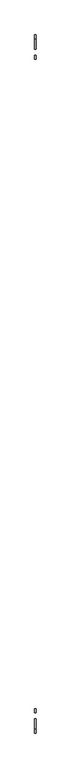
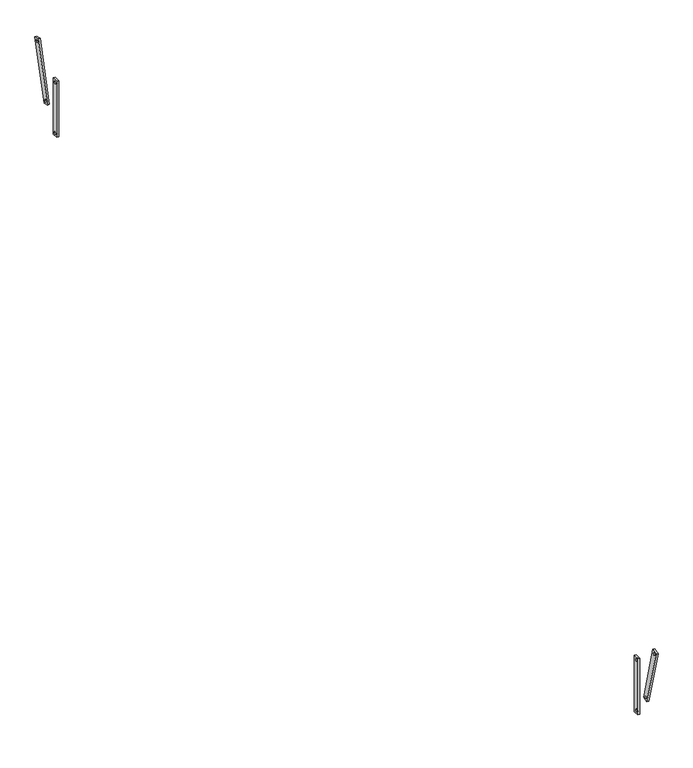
"""IFC4 building model written with IfcOpenShell, lengths in millimetres: proxy geometry, Modelos genéricos 278 : Modelos genéricos 278."""

import ifcopenshell
import ifcopenshell.guid

model = None  # the IFC model being written
_history = None  # IfcOwnerHistory: only IFC2X3 demands one
_inside = {}  # id of a spatial element -> (the spatial element, [elements in it])
_under = {}  # id of a project, library or spatial element -> (it, [spatial elements below it])
_declared = {}  # id of a project -> (the project, [libraries it declares])
_typed = {}  # id of a type object -> (the type object, [elements of that type])
_made_of = {}  # id of a material, layer set ... -> (it, [elements and type objects made of it])


def new_model(schema):
    """Start an empty IFC model of exactly this schema.

    Asked for "IFC4X3", IfcOpenShell would pick the latest addendum, in which some entities
    have other attributes; the version numbers below select the first issue.
    IFC2X3 requires an IfcOwnerHistory on every rooted entity: one is made here for all.
    """
    global model, _history
    if schema == "IFC4X3":
        model = ifcopenshell.file(schema_version=(4, 3, 0, 0))
    else:
        model = ifcopenshell.file(schema=schema)
    _inside.clear()
    _under.clear()
    _declared.clear()
    _typed.clear()
    _made_of.clear()
    _history = None
    if model.schema == "IFC2X3":
        org = make("IfcOrganization", Name="unknown")
        user = make(
            "IfcPersonAndOrganization",
            ThePerson=make("IfcPerson", FamilyName="unknown"),
            TheOrganization=org,
        )
        app = make(
            "IfcApplication",
            ApplicationDeveloper=org,
            Version="unknown",
            ApplicationFullName="unknown",
            ApplicationIdentifier="unknown",
        )
        _history = make(
            "IfcOwnerHistory",
            OwningUser=user,
            OwningApplication=app,
            ChangeAction="ADDED",
            CreationDate=0,
        )
    return model


def make(cls, **values):
    """One entity of the class cls with the attributes given. An attribute that is None is left unset."""
    return model.create_entity(
        cls, **{name: value for name, value in values.items() if value is not None}
    )


def rooted(cls, **values):
    """An entity with a GlobalId (a new one), such as an element, a storey or a relation."""
    return make(cls, GlobalId=ifcopenshell.guid.new(), OwnerHistory=_history, **values)


def si_unit(unit_type, name, prefix=None):
    """IfcSIUnit, for example si_unit("LENGTHUNIT", "METRE", prefix="MILLI")."""
    return make("IfcSIUnit", UnitType=unit_type, Prefix=prefix, Name=name)


def assignment(units):
    """IfcUnitAssignment: the units of a project."""
    return None if units is None else make("IfcUnitAssignment", Units=units)


def point(xyz):
    """IfcCartesianPoint."""
    return None if xyz is None else make("IfcCartesianPoint", Coordinates=xyz)


def direction(xyz):
    """IfcDirection."""
    return None if xyz is None else make("IfcDirection", DirectionRatios=xyz)


def frame(location, z_axis=None, x_axis=None):
    """IfcAxis2Placement3D, a coordinate frame: its origin and axes. An axis left out is left unset."""
    return make(
        "IfcAxis2Placement3D",
        Location=point(location),
        Axis=direction(z_axis),
        RefDirection=direction(x_axis),
    )


def frame_2d(location, x_axis=None):
    """IfcAxis2Placement2D, a coordinate frame in the plane: its origin and x axis."""
    return make(
        "IfcAxis2Placement2D", Location=point(location), RefDirection=direction(x_axis)
    )


def origin():
    """The frame at (0, 0, 0) with its axes left unset."""
    return frame((0.0, 0.0, 0.0))


def place(relative_to, where):
    """IfcLocalPlacement: puts the frame where relative to a parent placement (None: the world)."""
    return make(
        "IfcLocalPlacement", PlacementRelTo=relative_to, RelativePlacement=where
    )


def context(
    kind, dimensions, precision=None, world=None, true_north=None, identifier=None
):
    """IfcGeometricRepresentationContext, for example the 3D "Model" context."""
    return make(
        "IfcGeometricRepresentationContext",
        ContextIdentifier=identifier,
        ContextType=kind,
        CoordinateSpaceDimension=dimensions,
        Precision=precision,
        WorldCoordinateSystem=world,
        TrueNorth=true_north,
    )


def project(units=None, contexts=None):
    """IfcProject with its units and contexts."""
    return rooted(
        "IfcProject",
        Name="project",
        RepresentationContexts=contexts,
        UnitsInContext=assignment(units),
    )


def spatial(cls, under=None, at=None, **own):
    """A site, building, storey or space (cls), placed at a placement, below another one or the project."""
    s = rooted(cls, ObjectPlacement=at, **own)
    if under is not None:
        _under.setdefault(under.id(), (under, []))[1].append(s)
    return s


def polyline(points):
    """IfcPolyline through the points."""
    return make("IfcPolyline", Points=[point(p) for p in points])


def circle_curve(where, radius):
    """IfcCircle in the frame where."""
    return make("IfcCircle", Position=where, Radius=radius)


def trimmed(basis, trim1, trim2, sense, master):
    """IfcTrimmedCurve: the piece of a basis curve between two trims."""
    return make(
        "IfcTrimmedCurve",
        BasisCurve=basis,
        Trim1=trim1,
        Trim2=trim2,
        SenseAgreement=sense,
        MasterRepresentation=master,
    )


def segment(curve, same_sense, transition):
    """IfcCompositeCurveSegment."""
    return make(
        "IfcCompositeCurveSegment",
        Transition=transition,
        SameSense=same_sense,
        ParentCurve=curve,
    )


def composite_curve(segments, self_intersect=None):
    """IfcCompositeCurve: segments joined end to end."""
    return make("IfcCompositeCurve", Segments=segments, SelfIntersect=self_intersect)


def outline(outer, holes=None, kind="AREA"):
    """IfcArbitraryClosedProfileDef: a profile drawn as a closed curve; with holes, ...WithVoids."""
    if holes is None:
        return make("IfcArbitraryClosedProfileDef", ProfileType=kind, OuterCurve=outer)
    return make(
        "IfcArbitraryProfileDefWithVoids",
        ProfileType=kind,
        OuterCurve=outer,
        InnerCurves=holes,
    )


def extrude(swept, where, along, depth):
    """IfcExtrudedAreaSolid: the profile swept, set in the frame where, extruded along a direction by depth."""
    return make(
        "IfcExtrudedAreaSolid",
        SweptArea=swept,
        Position=where,
        ExtrudedDirection=direction(along),
        Depth=depth,
    )


def shape(context_of_items, identifier, shape_type, items):
    """IfcShapeRepresentation: the items that make up one representation, for example the "Body"."""
    return make(
        "IfcShapeRepresentation",
        ContextOfItems=context_of_items,
        RepresentationIdentifier=identifier,
        RepresentationType=shape_type,
        Items=items,
    )


def source(mapping_origin, context_of_items, identifier, shape_type, items):
    """IfcRepresentationMap: a shape defined once, which mapped items show again and again."""
    return make(
        "IfcRepresentationMap",
        MappingOrigin=mapping_origin,
        MappedRepresentation=shape(context_of_items, identifier, shape_type, items),
    )


def transform(
    local_origin,
    x_axis=None,
    y_axis=None,
    z_axis=None,
    scale=None,
    scale2=None,
    scale3=None,
    uniform=True,
):
    """IfcCartesianTransformationOperator3D, or its non-uniform kind. x_axis, y_axis, z_axis: its Axis1, 2, 3."""
    if uniform:
        return make(
            "IfcCartesianTransformationOperator3D",
            Axis1=direction(x_axis),
            Axis2=direction(y_axis),
            LocalOrigin=point(local_origin),
            Scale=scale,
            Axis3=direction(z_axis),
        )
    return make(
        "IfcCartesianTransformationOperator3DnonUniform",
        Axis1=direction(x_axis),
        Axis2=direction(y_axis),
        LocalOrigin=point(local_origin),
        Scale=scale,
        Axis3=direction(z_axis),
        Scale2=scale2,
        Scale3=scale3,
    )


def mapped(mapping_source, mapping_target):
    """IfcMappedItem: shows the shape of a source again, moved by a transform."""
    return make(
        "IfcMappedItem", MappingSource=mapping_source, MappingTarget=mapping_target
    )


def made_of(thing, what):
    """Note that an element or type object is made of a material, layer set ...; save() writes the relation."""
    if what is not None:
        _made_of.setdefault(what.id(), (what, []))[1].append(thing)
    return thing


def element(
    cls,
    number,
    at=None,
    inside=None,
    cuts=None,
    type_object=None,
    material=None,
    context=None,
    identifier="Body",
    shape_type=None,
    held_by="IfcProductDefinitionShape",
    body=None,
    shapes=None,
    **own,
):
    """One element of the class cls, such as IfcWall. Its Tag is "e" and its number.

    at: its placement. inside: the storey or other place that contains it. cuts: it is an
    opening in that element (IfcRelVoidsElement). A single representation is given by context,
    identifier, shape_type and body (its items); several are given by shapes. held_by: the class
    of the entity that holds the representations. save() writes the other relations.
    """
    e = rooted(cls, Tag="e%d" % number, ObjectPlacement=at, **own)
    if body is not None:
        shapes = [shape(context, identifier, shape_type, body)]
    if shapes is not None:
        e.Representation = make(held_by, Representations=shapes)
    if inside is not None:
        _inside.setdefault(inside.id(), (inside, []))[1].append(e)
    if cuts is not None:
        rooted(
            "IfcRelVoidsElement", RelatingBuildingElement=cuts, RelatedOpeningElement=e
        )
    if type_object is not None:
        _typed.setdefault(type_object.id(), (type_object, []))[1].append(e)
    return made_of(e, material)


def aggregate(whole, parts):
    """IfcRelAggregates: a whole, such as a stair, and the parts it consists of."""
    return rooted("IfcRelAggregates", RelatingObject=whole, RelatedObjects=parts)


def save(model, path):
    """Write the relations noted so far, then the file.

    IfcRelAggregates (storeys below a building ...), IfcRelContainedInSpatialStructure (elements
    in a storey), IfcRelDefinesByType, IfcRelAssociatesMaterial and IfcRelDeclares: one each for
    every whole, place, type object, material and project.
    """
    for whole, parts in _under.values():
        aggregate(whole, parts)
    for where, things in _inside.values():
        rooted(
            "IfcRelContainedInSpatialStructure",
            RelatedElements=things,
            RelatingStructure=where,
        )
    for kind, things in _typed.values():
        rooted("IfcRelDefinesByType", RelatedObjects=things, RelatingType=kind)
    for what, things in _made_of.values():
        rooted("IfcRelAssociatesMaterial", RelatedObjects=things, RelatingMaterial=what)
    for by, libraries in _declared.values():
        rooted("IfcRelDeclares", RelatingContext=by, RelatedDefinitions=libraries)
    model.write(path)


def generic_models_0523bc30(model_context):
    return source(origin(), model_context, "Body", "SweptSolid", [
        extrude(outline(polyline([(5318.6238165, 2800.0), (5318.6238165, 3200.0), (5358.6238165, 3200.0), (5358.6238165, 2800.0), (5318.6238165, 2800.0)]), holes=[composite_curve([segment(trimmed(circle_curve(frame_2d((5338.6238165, 3180.0)), 7.5), [point((5346.1238165, 3180.0))], [point((5331.1238165, 3180.0))], True, "CARTESIAN"), True, "CONTINUOUS"), segment(trimmed(circle_curve(frame_2d((5338.6238165, 3180.0)), 7.5), [point((5331.1238165, 3180.0))], [point((5346.1238165, 3180.0))], True, "CARTESIAN"), True, "CONTINUOUS")], self_intersect=False), composite_curve([segment(trimmed(circle_curve(frame_2d((5338.6238165, 2820.0)), 7.5), [point((5346.1238165, 2820.0))], [point((5331.1238165, 2820.0))], True, "CARTESIAN"), True, "CONTINUOUS"), segment(trimmed(circle_curve(frame_2d((5338.6238165, 2820.0)), 7.5), [point((5331.1238165, 2820.0))], [point((5346.1238165, 2820.0))], True, "CARTESIAN"), True, "CONTINUOUS")], self_intersect=False)]), frame((-12689.2527533, 0.0, 0.0), z_axis=(1.0, 0.0, 0.0), x_axis=(0.0, 1.0, 0.0)), (0.0, 0.0, 1.0), 12.7),
        extrude(outline(polyline([(5424.7907615, 2966.5419368), (5533.4947604, 3372.2307838), (5572.1317934, 3361.878022), (5463.4277945, 2956.1891749), (5424.7907615, 2966.5419368)]), holes=[composite_curve([segment(trimmed(circle_curve(frame_2d((5547.636896, 3347.7358864)), 7.5), [point((5554.8813397, 3345.7947435))], [point((5540.3924523, 3349.6770292))], True, "CARTESIAN"), True, "CONTINUOUS"), segment(trimmed(circle_curve(frame_2d((5547.636896, 3347.7358864)), 7.5), [point((5540.3924523, 3349.6770292))], [point((5554.8813397, 3345.7947435))], True, "CARTESIAN"), True, "CONTINUOUS")], self_intersect=False), composite_curve([segment(trimmed(circle_curve(frame_2d((5449.2856589, 2980.6840724)), 7.5), [point((5456.5301026, 2978.7429295))], [point((5442.0412152, 2982.6252152))], True, "CARTESIAN"), True, "CONTINUOUS"), segment(trimmed(circle_curve(frame_2d((5449.2856589, 2980.6840724)), 7.5), [point((5442.0412152, 2982.6252152))], [point((5456.5301026, 2978.7429295))], True, "CARTESIAN"), True, "CONTINUOUS")], self_intersect=False)]), frame((-12689.2527533, 0.0, 0.0), z_axis=(1.0, 0.0, 0.0), x_axis=(0.0, 1.0, 0.0)), (0.0, 0.0, 1.0), 12.7),
        extrude(outline(polyline([(-1421.3761835, 2800.0), (-1461.3761835, 2800.0), (-1461.3761835, 3200.0), (-1421.3761835, 3200.0), (-1421.3761835, 2800.0)]), holes=[composite_curve([segment(trimmed(circle_curve(frame_2d((-1441.3761835, 3180.0)), 7.5), [point((-1448.8761835, 3180.0))], [point((-1433.8761835, 3180.0))], True, "CARTESIAN"), True, "CONTINUOUS"), segment(trimmed(circle_curve(frame_2d((-1441.3761835, 3180.0)), 7.5), [point((-1433.8761835, 3180.0))], [point((-1448.8761835, 3180.0))], True, "CARTESIAN"), True, "CONTINUOUS")], self_intersect=False), composite_curve([segment(trimmed(circle_curve(frame_2d((-1441.3761835, 2820.0)), 7.5), [point((-1448.8761835, 2820.0))], [point((-1433.8761835, 2820.0))], True, "CARTESIAN"), True, "CONTINUOUS"), segment(trimmed(circle_curve(frame_2d((-1441.3761835, 2820.0)), 7.5), [point((-1433.8761835, 2820.0))], [point((-1448.8761835, 2820.0))], True, "CARTESIAN"), True, "CONTINUOUS")], self_intersect=False)]), frame((-12689.2527533, 0.0, 0.0), z_axis=(1.0, 0.0, 0.0), x_axis=(0.0, 1.0, 0.0)), (0.0, 0.0, 1.0), 12.7),
        extrude(outline(polyline([(-1527.5431285, 2966.5419368), (-1566.1801615, 2956.1891749), (-1674.8841605, 3361.878022), (-1636.2471274, 3372.2307838), (-1527.5431285, 2966.5419368)]), holes=[composite_curve([segment(trimmed(circle_curve(frame_2d((-1650.389263, 3347.7358864)), 7.5), [point((-1657.6337067, 3345.7947435))], [point((-1643.1448193, 3349.6770292))], True, "CARTESIAN"), True, "CONTINUOUS"), segment(trimmed(circle_curve(frame_2d((-1650.389263, 3347.7358864)), 7.5), [point((-1643.1448193, 3349.6770292))], [point((-1657.6337067, 3345.7947435))], True, "CARTESIAN"), True, "CONTINUOUS")], self_intersect=False), composite_curve([segment(trimmed(circle_curve(frame_2d((-1552.0380259, 2980.6840724)), 7.5), [point((-1559.2824696, 2978.7429295))], [point((-1544.7935822, 2982.6252152))], True, "CARTESIAN"), True, "CONTINUOUS"), segment(trimmed(circle_curve(frame_2d((-1552.0380259, 2980.6840724)), 7.5), [point((-1544.7935822, 2982.6252152))], [point((-1559.2824696, 2978.7429295))], True, "CARTESIAN"), True, "CONTINUOUS")], self_intersect=False)]), frame((-12689.2527533, 0.0, 0.0), z_axis=(1.0, 0.0, 0.0), x_axis=(0.0, 1.0, 0.0)), (0.0, 0.0, 1.0), 12.7),
    ])


if __name__ == "__main__":
    model = new_model("IFC4")
    model_context = context("Model", 3, world=origin())
    ifc_project = project(units=[si_unit("LENGTHUNIT", "METRE", prefix="MILLI")], contexts=[model_context])
    site = spatial("IfcSite", under=ifc_project)
    building = spatial("IfcBuilding", under=site)
    placement = place(None, origin())
    generic_models_shape = generic_models_0523bc30(model_context)
    element("IfcBuildingElementProxy", 1, Name="Modelos genéricos 278 : Modelos genéricos 278", ObjectType="Modelos genéricos 278 : Modelos genéricos 278", at=placement, inside=building, context=model_context, shape_type="MappedRepresentation", body=[
        mapped(generic_models_shape, transform((0.0, 0.0, 0.0), x_axis=(1.0, 0.0, 0.0), y_axis=(0.0, 1.0, 0.0), z_axis=(0.0, 0.0, 1.0))),
    ])
    save(model, "model.ifc")
